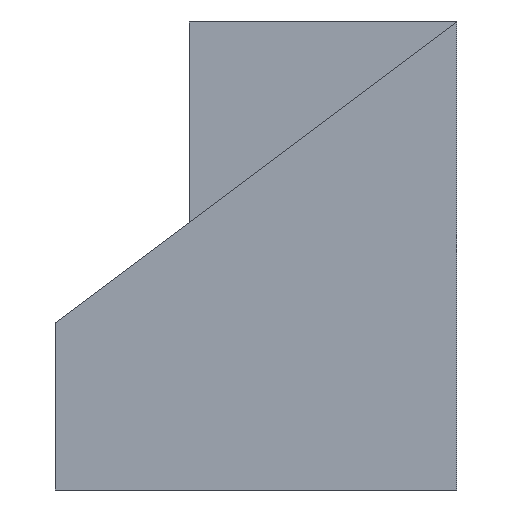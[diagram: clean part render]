
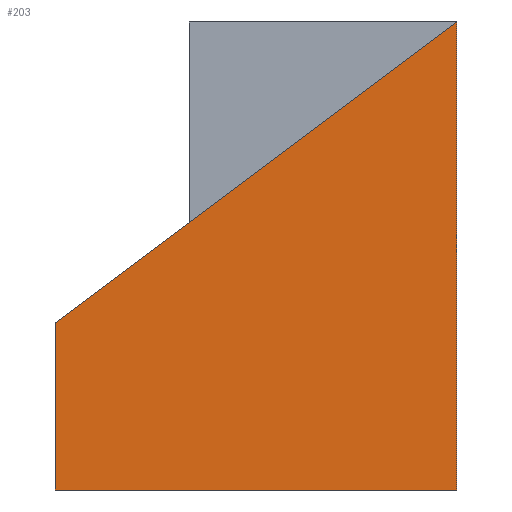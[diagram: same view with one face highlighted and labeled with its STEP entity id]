
A CAD part, left-side view. The second image highlights one B-rep face of the part: STEP entity #203.
In plain terms, the highlighted planar face has unit normal (-1, 0, 0).
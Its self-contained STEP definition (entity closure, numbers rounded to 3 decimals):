
#23=FACE_OUTER_BOUND('',#34,.T.);
#34=EDGE_LOOP('',(#168,#169,#170,#171));
#44=LINE('',#306,#70);
#51=LINE('',#319,#77);
#60=LINE('',#337,#86);
#61=LINE('',#338,#87);
#70=VECTOR('',#252,10.);
#77=VECTOR('',#261,10.);
#86=VECTOR('',#280,10.);
#87=VECTOR('',#281,10.);
#95=VERTEX_POINT('',#304);
#96=VERTEX_POINT('',#305);
#101=VERTEX_POINT('',#317);
#105=VERTEX_POINT('',#336);
#113=EDGE_CURVE('',#95,#96,#44,.T.);
#120=EDGE_CURVE('',#101,#95,#51,.T.);
#129=EDGE_CURVE('',#105,#101,#60,.T.);
#130=EDGE_CURVE('',#105,#96,#61,.T.);
#168=ORIENTED_EDGE('',*,*,#113,.F.);
#169=ORIENTED_EDGE('',*,*,#120,.F.);
#170=ORIENTED_EDGE('',*,*,#129,.F.);
#171=ORIENTED_EDGE('',*,*,#130,.T.);
#192=PLANE('',#234);
#203=ADVANCED_FACE('',(#23),#192,.T.);
#234=AXIS2_PLACEMENT_3D('',#335,#278,#279);
#252=DIRECTION('',(0.,-0.8,0.6));
#261=DIRECTION('',(0.,0.,1.));
#278=DIRECTION('center_axis',(-1.,0.,0.));
#279=DIRECTION('ref_axis',(0.,0.,1.));
#280=DIRECTION('',(0.,1.,0.));
#281=DIRECTION('',(0.,0.,1.));
#304=CARTESIAN_POINT('',(-50.,60.,-10.));
#305=CARTESIAN_POINT('',(-50.,0.,35.));
#306=CARTESIAN_POINT('',(-50.,31.8,11.15));
#317=CARTESIAN_POINT('',(-50.,60.,-35.));
#319=CARTESIAN_POINT('',(-50.,60.,-35.));
#335=CARTESIAN_POINT('Origin',(-50.,0.,-35.));
#336=CARTESIAN_POINT('',(-50.,0.,-35.));
#337=CARTESIAN_POINT('',(-50.,0.,-35.));
#338=CARTESIAN_POINT('',(-50.,0.,-35.));
